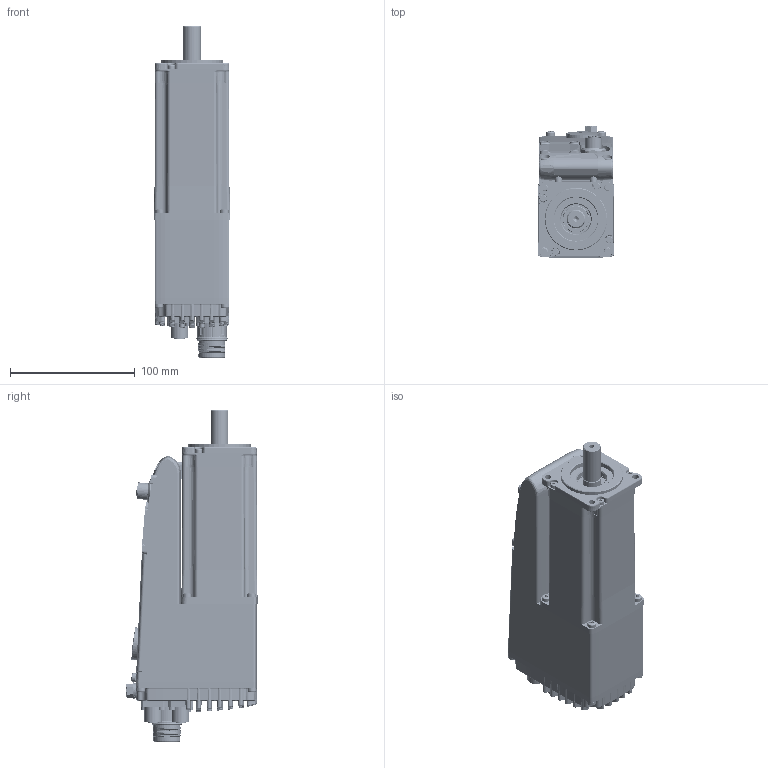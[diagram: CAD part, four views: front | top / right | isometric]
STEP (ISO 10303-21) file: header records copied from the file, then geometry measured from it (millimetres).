
FILE_DESCRIPTION(/* description */ ('Unknown'),/* implementation_level */ '2;1');
FILE_NAME(/* name */ 'DUET60 1,3 A1 0 E 2 (Q0C003)',/* time_stamp */ '2020-11-04T15:09:20+01:00',/* author */ ('Unknown'),/* organization */ ('Unknown'),/* preprocessor_version */ 'ST-DEVELOPER v16.7',/* originating_system */ 'DEX',/* authorisation */ $);
FILE_SCHEMA (('AUTOMOTIVE_DESIGN {1 0 10303 214 3 1 1}'));
Products named in the file (44): DUET60 1,3 A1 0 E 2 (Q0C003); 003251021030; 005123000690; 005123000690_0; 005123000690_1; 005123000690_2; 005123000690_3; 005123000690_4; 005123000690_5; 005123000690_6; 005755000060; 005751000100; 005123000100; 005123000100_0; 005123000100_1; 005123000100_2; 005123000100_3; 005123000100_4; 005123000100_5; 005911000198; 005008000740-oa1; 005008000744-oa2; MD031601.1.0; 005911000495; N01A67; 003120003044; 052400000001; LC431503.0.0; J_4302729; J_7601000000; V_VTCTX3X10(8.8); J_7084943121; MD031604.0.0; V_RP6; MD031607.0.0; MD031608.0.0; V_VTCTX40X12A; V_VTCTXK30X8; MD031609.0.0; V_V027400610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
Assembly tree (75 placements, depth 4):
  DUET60 1,3 A1 0 E 2 (Q0C003)
    003251021030
    005123000690
    005123000690_0
    005123000690_1
    005123000690_2
    005123000690_3
    005123000690_4
    005123000690_5
    005123000690_6
    005755000060
    005751000100
    005123000100
    005123000100_0
    005123000100_1
    005123000100_2
    005123000100_3
    005123000100_4
    005123000100_5
    005911000198  x4
    005008000740-oa1
    005008000744-oa2
    MD031601.1.0
    005911000495  x4
    N01A67
    003120003044
    052400000001
      LC431503.0.0
        J_4302729  x2
        J_7601000000
        V_VTCTX3X10(8.8)  x11
        J_7084943121
        MD031604.0.0
        V_RP6
      MD031607.0.0
      MD031608.0.0
      V_VTCTX40X12A  x12
      V_VTCTXK30X8  x5
      MD031609.0.0
      V_V027400610
      169692
      MD081003.2.0
      MD141520.0.0
      CONEC-43-01063
Bounding box: 61.32 x 105.22 x 265.8 mm (x, y, z)
Volume: 399752.4 mm3; surface area: 253973 mm2
Topology: 74 solids, 75 shells, 4290 faces, 10751 edges, 6811 vertices
Faces by surface type: plane 1802, cylinder 1107, bspline 564, cone 379, torus 359, sphere 79
Full cylindrical faces by diameter (mm): 0.8 x8, 0.9 x8, 1.1 x8, 1.2 x4, 1.3 x8, 1.4 x8, 1.5 x8, 1.7 x2, 2.2 x5, 2.4 x15, 2.459 x11, 2.5 x17, 3 x24, 3.2 x24, 3.242 x1, 3.3 x1, 3.4 x8, 3.5 x14, 4 x14, 4.2 x3, 4.5 x6, 5 x7, 5.5 x20, 5.6 x5, 6 x22, 6.4 x1, 7 x12, 8 x2, 9.99 x1, 10 x2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
Entity records: 146968 total; most frequent: CARTESIAN_POINT 46491, ORIENTED_EDGE 16834, DIRECTION 16308, EDGE_CURVE 8417, AXIS2_PLACEMENT_3D 6353, VERTEX_POINT 5643, FACE_BOUND 4612, EDGE_LOOP 4559
